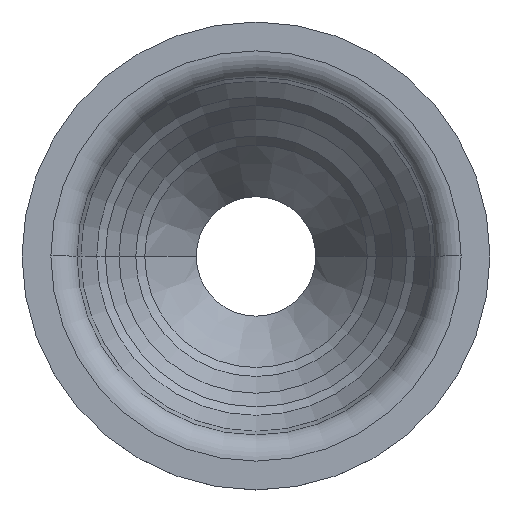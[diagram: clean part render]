
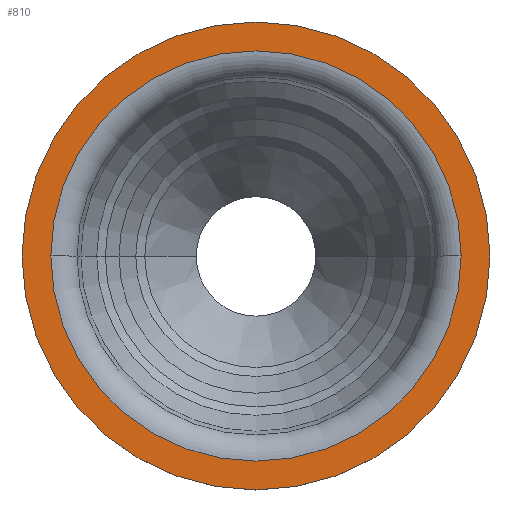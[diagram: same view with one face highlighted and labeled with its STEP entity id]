
A CAD part, top view. The second image highlights one B-rep face of the part: STEP entity #810.
In plain terms, the highlighted planar face has unit normal (0, 0, 1).
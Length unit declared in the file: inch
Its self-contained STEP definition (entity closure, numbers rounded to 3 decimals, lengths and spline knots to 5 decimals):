
#10 = FACE_BOUND ( 'NONE', #644, .T. ) ;
#26 = PLANE ( 'NONE',  #973 ) ;
#55 = CARTESIAN_POINT ( 'NONE',  ( -0.6875, 0., 0. ) ) ;
#73 = DIRECTION ( 'NONE',  ( 0., 0., 1. ) ) ;
#91 = EDGE_CURVE ( 'NONE', #317, #509, #993, .T. ) ;
#126 = CARTESIAN_POINT ( 'NONE',  ( 0., 0., 0. ) ) ;
#172 = CARTESIAN_POINT ( 'NONE',  ( 0.6875, 0., 0. ) ) ;
#188 = CARTESIAN_POINT ( 'NONE',  ( 0., 0., 0. ) ) ;
#193 = FACE_OUTER_BOUND ( 'NONE', #740, .T. ) ;
#205 = VERTEX_POINT ( 'NONE', #360 ) ;
#215 = CIRCLE ( 'NONE', #462, 0.60281 ) ;
#264 = DIRECTION ( 'NONE',  ( 1., 0., 0. ) ) ;
#269 = CIRCLE ( 'NONE', #1039, 0.60281 ) ;
#315 = VERTEX_POINT ( 'NONE', #457 ) ;
#317 = VERTEX_POINT ( 'NONE', #172 ) ;
#322 = ORIENTED_EDGE ( 'NONE', *, *, #341, .F. ) ;
#341 = EDGE_CURVE ( 'NONE', #315, #205, #215, .T. ) ;
#360 = CARTESIAN_POINT ( 'NONE',  ( -0.60281, 0., 0. ) ) ;
#366 = DIRECTION ( 'NONE',  ( 1., 0., 0. ) ) ;
#387 = AXIS2_PLACEMENT_3D ( 'NONE', #729, #73, #707 ) ;
#457 = CARTESIAN_POINT ( 'NONE',  ( 0.60281, 0., 0. ) ) ;
#462 = AXIS2_PLACEMENT_3D ( 'NONE', #697, #632, #816 ) ;
#509 = VERTEX_POINT ( 'NONE', #55 ) ;
#514 = CARTESIAN_POINT ( 'NONE',  ( 0., 0.6875, 0. ) ) ;
#523 = ORIENTED_EDGE ( 'NONE', *, *, #91, .T. ) ;
#548 = ORIENTED_EDGE ( 'NONE', *, *, #987, .F. ) ;
#579 = DIRECTION ( 'NONE',  ( 0., 0., 1. ) ) ;
#632 = DIRECTION ( 'NONE',  ( 0., 0., 1. ) ) ;
#644 = EDGE_LOOP ( 'NONE', ( #322, #548 ) ) ;
#697 = CARTESIAN_POINT ( 'NONE',  ( 0., 0., 0. ) ) ;
#703 = EDGE_CURVE ( 'NONE', #509, #317, #839, .T. ) ;
#707 = DIRECTION ( 'NONE',  ( 1., 0., 0. ) ) ;
#729 = CARTESIAN_POINT ( 'NONE',  ( 0., 0., 0. ) ) ;
#740 = EDGE_LOOP ( 'NONE', ( #523, #760 ) ) ;
#750 = DIRECTION ( 'NONE',  ( -1., 0., 0. ) ) ;
#760 = ORIENTED_EDGE ( 'NONE', *, *, #703, .T. ) ;
#810 = ADVANCED_FACE ( 'NONE', ( #10, #193 ), #26, .F. ) ;
#816 = DIRECTION ( 'NONE',  ( 1., 0., 0. ) ) ;
#839 = CIRCLE ( 'NONE', #387, 0.6875 ) ;
#913 = DIRECTION ( 'NONE',  ( 0., 0., -1. ) ) ;
#938 = DIRECTION ( 'NONE',  ( 0., 0., 1. ) ) ;
#973 = AXIS2_PLACEMENT_3D ( 'NONE', #514, #913, #750 ) ;
#987 = EDGE_CURVE ( 'NONE', #205, #315, #269, .T. ) ;
#988 = AXIS2_PLACEMENT_3D ( 'NONE', #188, #579, #264 ) ;
#993 = CIRCLE ( 'NONE', #988, 0.6875 ) ;
#1039 = AXIS2_PLACEMENT_3D ( 'NONE', #126, #938, #366 ) ;
